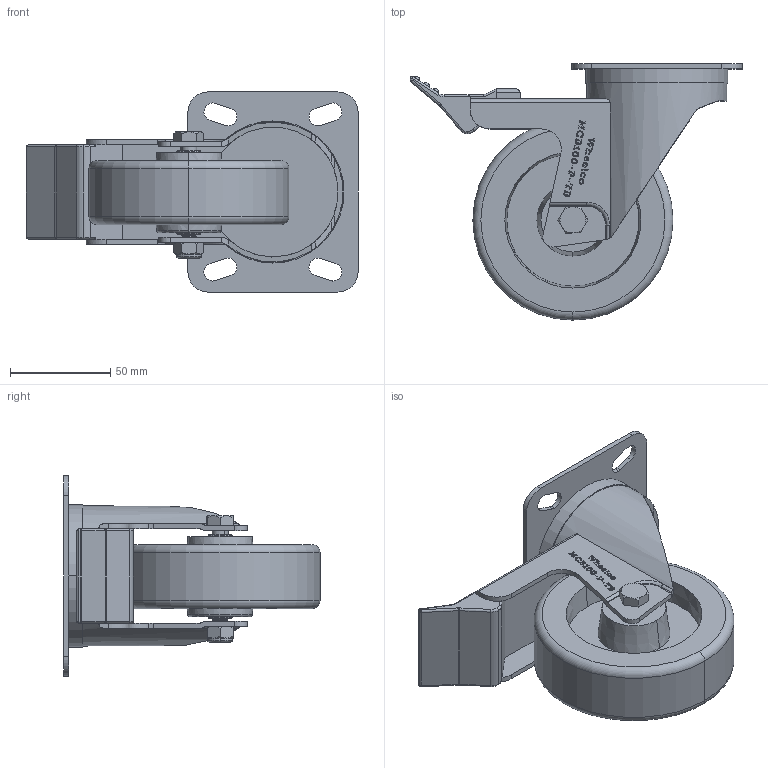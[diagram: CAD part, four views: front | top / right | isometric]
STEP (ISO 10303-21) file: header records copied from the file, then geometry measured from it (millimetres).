
FILE_DESCRIPTION (( 'STEP AP214' ), '1' );
FILE_NAME ('MDU100-P-TB.step', '2024-01-21T22:16:25', ( '' ), ( '' ), 'SwSTEP 2.0', 'SolidWorks 2022', '' );
FILE_SCHEMA (( 'AUTOMOTIVE_DESIGN' ));
Length unit declared in the file: millimetre
Products named in the file (7): MDU100-P-TB; 100X85 ANGLED; MCU100; MCB100-P-TB; M8Nyloc; SP12-8-41; M8x55
Assembly tree (6 placements, depth 2):
  MDU100-P-TB
    MCB100-P-TB
    M8x55
    M8Nyloc
    100X85 ANGLED
    SP12-8-41
    MCU100
Bounding box: 165.93 x 128 x 100 mm (x, y, z)
Volume: 299753 mm3; surface area: 98674.9 mm2
Topology: 6 solids, 6 shells, 678 faces, 1794 edges, 1165 vertices
Faces by surface type: plane 311, cylinder 181, bspline 120, torus 31, cone 28, sphere 7
Entity records: 33634 total; most frequent: CARTESIAN_POINT 16429, ORIENTED_EDGE 3580, DIRECTION 2721, EDGE_CURVE 1790, VERTEX_POINT 1165, LINE 1065, VECTOR 1065, AXIS2_PLACEMENT_3D 828
